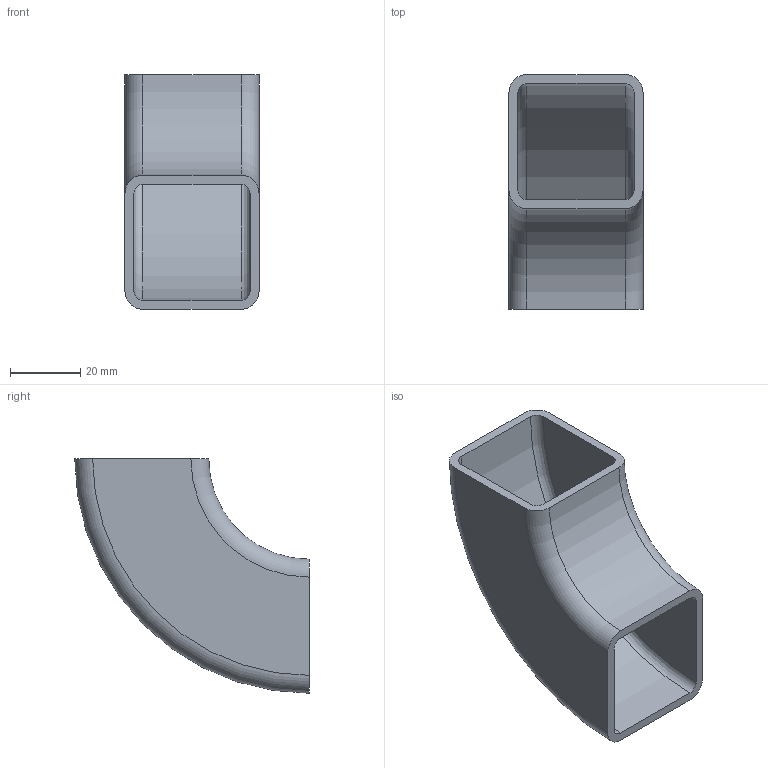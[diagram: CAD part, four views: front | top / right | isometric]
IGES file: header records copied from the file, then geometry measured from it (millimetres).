
Global section: file name: No Iges File Name specified; native system: Autodesk Inventor 2011; preprocessor: AutoDesk Inventor Iges Exporter R2011; author: bamfomg; date: 20110321.073040; units: inch
Bounding box: 38.1 x 66.67 x 66.67 mm (x, y, z)
Volume: 25784.9 mm3; surface area: 20992.4 mm2
Topology: 1 solids, 1 shells, 18 faces, 48 edges, 32 vertices
Faces by surface type: revolution 6, plane 6, torus 4, cylinder 2
